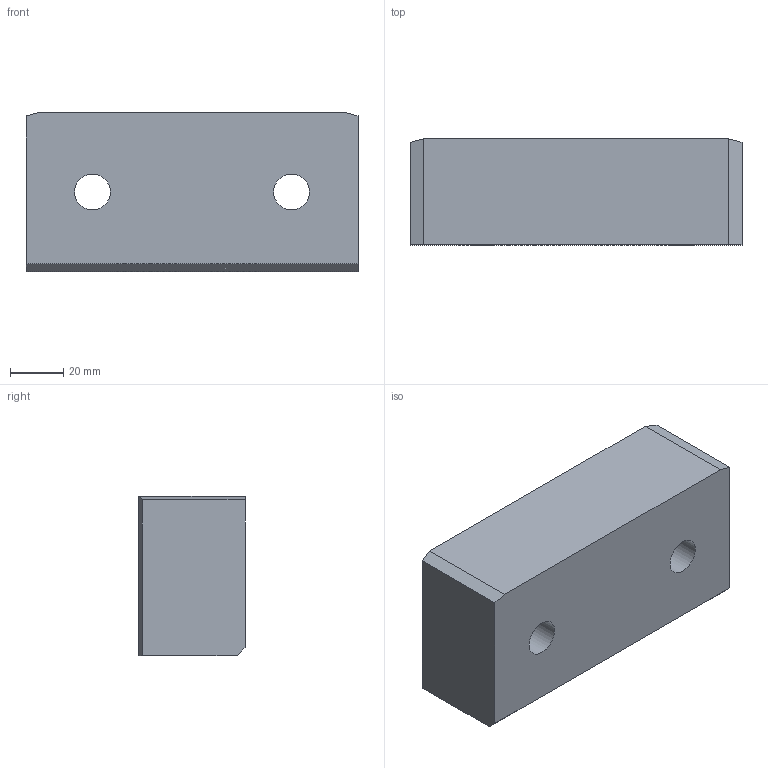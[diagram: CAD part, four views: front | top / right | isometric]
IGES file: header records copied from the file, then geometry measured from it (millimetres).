
Start section: Data from Parasolid IGES Translator 20.0.26, Copyright(c) 2006 Siemens P LM Software. All Rights Reserved.
Global section: file name: G224-12-040-125.igs; native system: By Siemens PLM Incorporated; preprocessor: XPlus GENERIC/IGES 20.0.26; author: Noname; organization: Noname; date: 20190709.085228; units: millimetre
Bounding box: 125 x 40 x 60 mm (x, y, z)
Surface area: 32666.3 mm2 (no closed solid volume)
Topology: 0 solids, 0 shells, 17 faces, 74 edges, 70 vertices
Faces by surface type: extrusion 13, revolution 4
